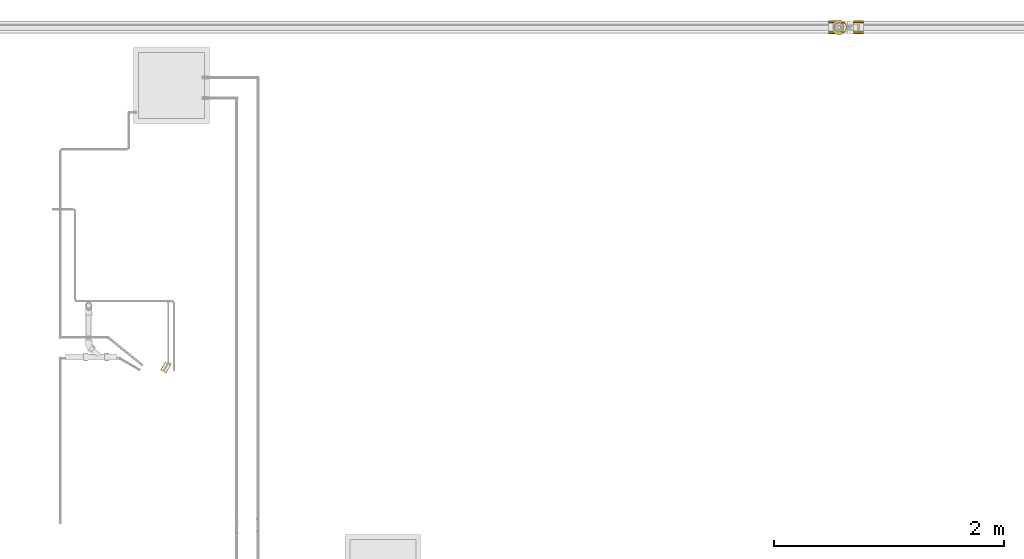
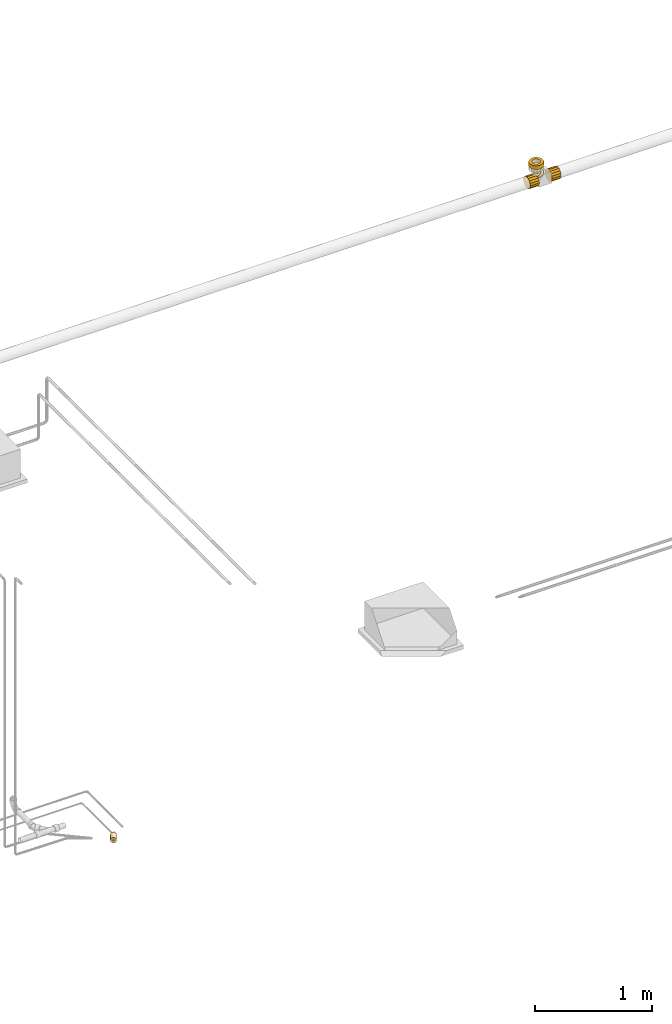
# One storey, part 1 of 35: 6 coverings.
"""IFC2X3 building model written with IfcOpenShell, lengths in millimetres."""

import ifcopenshell
import ifcopenshell.guid

model = None  # the IFC model being written
_history = None  # IfcOwnerHistory: only IFC2X3 demands one
_inside = {}  # id of a spatial element -> (the spatial element, [elements in it])
_under = {}  # id of a project, library or spatial element -> (it, [spatial elements below it])
_declared = {}  # id of a project -> (the project, [libraries it declares])
_typed = {}  # id of a type object -> (the type object, [elements of that type])
_made_of = {}  # id of a material, layer set ... -> (it, [elements and type objects made of it])


def new_model(schema):
    """Start an empty IFC model of exactly this schema.

    Asked for "IFC4X3", IfcOpenShell would pick the latest addendum, in which some entities
    have other attributes; the version numbers below select the first issue.
    IFC2X3 requires an IfcOwnerHistory on every rooted entity: one is made here for all.
    """
    global model, _history
    if schema == "IFC4X3":
        model = ifcopenshell.file(schema_version=(4, 3, 0, 0))
    else:
        model = ifcopenshell.file(schema=schema)
    _inside.clear()
    _under.clear()
    _declared.clear()
    _typed.clear()
    _made_of.clear()
    _history = None
    if model.schema == "IFC2X3":
        org = make("IfcOrganization", Name="unknown")
        user = make(
            "IfcPersonAndOrganization",
            ThePerson=make("IfcPerson", FamilyName="unknown"),
            TheOrganization=org,
        )
        app = make(
            "IfcApplication",
            ApplicationDeveloper=org,
            Version="unknown",
            ApplicationFullName="unknown",
            ApplicationIdentifier="unknown",
        )
        _history = make(
            "IfcOwnerHistory",
            OwningUser=user,
            OwningApplication=app,
            ChangeAction="ADDED",
            CreationDate=0,
        )
    return model


def make(cls, **values):
    """One entity of the class cls with the attributes given. An attribute that is None is left unset."""
    return model.create_entity(
        cls, **{name: value for name, value in values.items() if value is not None}
    )


def entity(cls, *values):
    """Any entity or typed value of the class cls, its attributes in the order of the schema. None: left unset."""
    e = model.create_entity(cls)
    for i, value in enumerate(values):
        if value is not None:
            e[i] = value
    return e


def rooted(cls, **values):
    """An entity with a GlobalId (a new one), such as an element, a storey or a relation."""
    return make(cls, GlobalId=ifcopenshell.guid.new(), OwnerHistory=_history, **values)


def si_unit(unit_type, name, prefix=None):
    """IfcSIUnit, for example si_unit("LENGTHUNIT", "METRE", prefix="MILLI")."""
    return make("IfcSIUnit", UnitType=unit_type, Prefix=prefix, Name=name)


def converted_unit(unit_type, name, factor, base, dimensions=None, offset=None):
    """IfcConversionBasedUnit, such as the inch: factor (a typed value) times the base unit."""
    return make(
        "IfcConversionBasedUnit"
        if offset is None
        else "IfcConversionBasedUnitWithOffset",
        ConversionOffset=offset,
        Dimensions=None
        if dimensions is None
        else entity("IfcDimensionalExponents", *dimensions),
        UnitType=unit_type,
        Name=name,
        ConversionFactor=make(
            "IfcMeasureWithUnit", ValueComponent=factor, UnitComponent=base
        ),
    )


def derived_unit(unit_type, elements):
    """IfcDerivedUnit: a product of units, each with its exponent."""
    return make(
        "IfcDerivedUnit",
        Elements=[
            make("IfcDerivedUnitElement", Unit=unit, Exponent=power)
            for unit, power in elements
        ],
        UnitType=unit_type,
    )


def assignment(units):
    """IfcUnitAssignment: the units of a project."""
    return None if units is None else make("IfcUnitAssignment", Units=units)


def point(xyz):
    """IfcCartesianPoint."""
    return None if xyz is None else make("IfcCartesianPoint", Coordinates=xyz)


def direction(xyz):
    """IfcDirection."""
    return None if xyz is None else make("IfcDirection", DirectionRatios=xyz)


def frame(location, z_axis=None, x_axis=None):
    """IfcAxis2Placement3D, a coordinate frame: its origin and axes. An axis left out is left unset."""
    return make(
        "IfcAxis2Placement3D",
        Location=point(location),
        Axis=direction(z_axis),
        RefDirection=direction(x_axis),
    )


def frame_2d(location, x_axis=None):
    """IfcAxis2Placement2D, a coordinate frame in the plane: its origin and x axis."""
    return make(
        "IfcAxis2Placement2D", Location=point(location), RefDirection=direction(x_axis)
    )


def origin_with_axes():
    """The frame at (0, 0, 0) with the z axis (0, 0, 1) and the x axis (1, 0, 0) written out."""
    return frame((0.0, 0.0, 0.0), z_axis=(0.0, 0.0, 1.0), x_axis=(1.0, 0.0, 0.0))


def origin_2d_with_axis():
    """The frame at (0, 0) in the plane with the x axis (1, 0) written out."""
    return frame_2d((0.0, 0.0), x_axis=(1.0, 0.0))


def place(relative_to, where):
    """IfcLocalPlacement: puts the frame where relative to a parent placement (None: the world)."""
    return make(
        "IfcLocalPlacement", PlacementRelTo=relative_to, RelativePlacement=where
    )


def context(
    kind, dimensions, precision=None, world=None, true_north=None, identifier=None
):
    """IfcGeometricRepresentationContext, for example the 3D "Model" context."""
    return make(
        "IfcGeometricRepresentationContext",
        ContextIdentifier=identifier,
        ContextType=kind,
        CoordinateSpaceDimension=dimensions,
        Precision=precision,
        WorldCoordinateSystem=world,
        TrueNorth=true_north,
    )


def subcontext(parent, identifier, kind, view, scale=None):
    """IfcGeometricRepresentationSubContext, for example "Body" below "Model"."""
    return make(
        "IfcGeometricRepresentationSubContext",
        ContextIdentifier=identifier,
        ContextType=kind,
        ParentContext=parent,
        TargetScale=scale,
        TargetView=view,
    )


def project(units=None, contexts=None):
    """IfcProject with its units and contexts."""
    return rooted(
        "IfcProject",
        Name="project",
        RepresentationContexts=contexts,
        UnitsInContext=assignment(units),
    )


def spatial(cls, under=None, at=None, **own):
    """A site, building, storey or space (cls), placed at a placement, below another one or the project."""
    s = rooted(cls, ObjectPlacement=at, **own)
    if under is not None:
        _under.setdefault(under.id(), (under, []))[1].append(s)
    return s


def profile(cls, at=None, kind="AREA", **sizes):
    """A parametric profile (cls). Its sizes go by their IFC names, for example OverallWidth=200.0."""
    return make(cls, ProfileType=kind, Position=at, **sizes)


def hollow_circle(**sizes):
    """IfcCircleHollowProfileDef."""
    return profile("IfcCircleHollowProfileDef", **sizes)


def extrude(swept, where, along, depth):
    """IfcExtrudedAreaSolid: the profile swept, set in the frame where, extruded along a direction by depth."""
    return make(
        "IfcExtrudedAreaSolid",
        SweptArea=swept,
        Position=where,
        ExtrudedDirection=direction(along),
        Depth=depth,
    )


def faces_of(points, faces, orient=None, outer=None):
    """IfcFace entities. A face is a list of loops; a loop is a list of indices into points, from 0.

    orient and outer hold one flag for each loop. By default every Orientation is true, the
    first loop of a face is its IfcFaceOuterBound and the others are IfcFaceBound.
    """
    made = []
    for i, loops in enumerate(faces):
        bounds = []
        for j, loop in enumerate(loops):
            is_outer = j == 0 if outer is None else outer[i][j]
            bounds.append(
                make(
                    "IfcFaceOuterBound" if is_outer else "IfcFaceBound",
                    Bound=make("IfcPolyLoop", Polygon=[points[k] for k in loop]),
                    Orientation=True if orient is None else orient[i][j],
                )
            )
        made.append(make("IfcFace", Bounds=bounds))
    return made


def open_shell(faces, orient=None, outer=None):
    """The faces of one IfcOpenShell. surface_model builds it on its shared points."""
    return ("IfcOpenShell", faces, orient, outer)


def surface_model(cls, points, shells):
    """IfcFaceBasedSurfaceModel or IfcShellBasedSurfaceModel (cls): surfaces that need not close."""
    shared = [point(p) for p in points]
    made = [make(c, CfsFaces=faces_of(shared, fs, o, b)) for c, fs, o, b in shells]
    if cls == "IfcFaceBasedSurfaceModel":
        return make(cls, FbsmFaces=made)
    return make(cls, SbsmBoundary=made)


def shape(context_of_items, identifier, shape_type, items):
    """IfcShapeRepresentation: the items that make up one representation, for example the "Body"."""
    return make(
        "IfcShapeRepresentation",
        ContextOfItems=context_of_items,
        RepresentationIdentifier=identifier,
        RepresentationType=shape_type,
        Items=items,
    )


def source(mapping_origin, context_of_items, identifier, shape_type, items):
    """IfcRepresentationMap: a shape defined once, which mapped items show again and again."""
    return make(
        "IfcRepresentationMap",
        MappingOrigin=mapping_origin,
        MappedRepresentation=shape(context_of_items, identifier, shape_type, items),
    )


def transform(
    local_origin,
    x_axis=None,
    y_axis=None,
    z_axis=None,
    scale=None,
    scale2=None,
    scale3=None,
    uniform=True,
):
    """IfcCartesianTransformationOperator3D, or its non-uniform kind. x_axis, y_axis, z_axis: its Axis1, 2, 3."""
    if uniform:
        return make(
            "IfcCartesianTransformationOperator3D",
            Axis1=direction(x_axis),
            Axis2=direction(y_axis),
            LocalOrigin=point(local_origin),
            Scale=scale,
            Axis3=direction(z_axis),
        )
    return make(
        "IfcCartesianTransformationOperator3DnonUniform",
        Axis1=direction(x_axis),
        Axis2=direction(y_axis),
        LocalOrigin=point(local_origin),
        Scale=scale,
        Axis3=direction(z_axis),
        Scale2=scale2,
        Scale3=scale3,
    )


def mapped(mapping_source, mapping_target):
    """IfcMappedItem: shows the shape of a source again, moved by a transform."""
    return make(
        "IfcMappedItem", MappingSource=mapping_source, MappingTarget=mapping_target
    )


def made_of(thing, what):
    """Note that an element or type object is made of a material, layer set ...; save() writes the relation."""
    if what is not None:
        _made_of.setdefault(what.id(), (what, []))[1].append(thing)
    return thing


def element(
    cls,
    number,
    at=None,
    inside=None,
    cuts=None,
    type_object=None,
    material=None,
    context=None,
    identifier="Body",
    shape_type=None,
    held_by="IfcProductDefinitionShape",
    body=None,
    shapes=None,
    **own,
):
    """One element of the class cls, such as IfcWall. Its Tag is "e" and its number.

    at: its placement. inside: the storey or other place that contains it. cuts: it is an
    opening in that element (IfcRelVoidsElement). A single representation is given by context,
    identifier, shape_type and body (its items); several are given by shapes. held_by: the class
    of the entity that holds the representations. save() writes the other relations.
    """
    e = rooted(cls, Tag="e%d" % number, ObjectPlacement=at, **own)
    if body is not None:
        shapes = [shape(context, identifier, shape_type, body)]
    if shapes is not None:
        e.Representation = make(held_by, Representations=shapes)
    if inside is not None:
        _inside.setdefault(inside.id(), (inside, []))[1].append(e)
    if cuts is not None:
        rooted(
            "IfcRelVoidsElement", RelatingBuildingElement=cuts, RelatedOpeningElement=e
        )
    if type_object is not None:
        _typed.setdefault(type_object.id(), (type_object, []))[1].append(e)
    return made_of(e, material)


def aggregate(whole, parts):
    """IfcRelAggregates: a whole, such as a stair, and the parts it consists of."""
    return rooted("IfcRelAggregates", RelatingObject=whole, RelatedObjects=parts)


def save(model, path):
    """Write the relations noted so far, then the file.

    IfcRelAggregates (storeys below a building ...), IfcRelContainedInSpatialStructure (elements
    in a storey), IfcRelDefinesByType, IfcRelAssociatesMaterial and IfcRelDeclares: one each for
    every whole, place, type object, material and project.
    """
    for whole, parts in _under.values():
        aggregate(whole, parts)
    for where, things in _inside.values():
        rooted(
            "IfcRelContainedInSpatialStructure",
            RelatedElements=things,
            RelatingStructure=where,
        )
    for kind, things in _typed.values():
        rooted("IfcRelDefinesByType", RelatedObjects=things, RelatingType=kind)
    for what, things in _made_of.values():
        rooted("IfcRelAssociatesMaterial", RelatedObjects=things, RelatingMaterial=what)
    for by, libraries in _declared.values():
        rooted("IfcRelDeclares", RelatingContext=by, RelatedDefinitions=libraries)
    model.write(path)


model = new_model("IFC2X3")

# Units and contexts
model_context = context("Model", 3, precision=0.01, world=frame((0.0, 4.29681676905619e-09, 0.0)), true_north=direction((4.01073788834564e-13, 1.0)))
plan_context = context("Plan", 3, precision=0.01, world=frame((0.0, 4.29681676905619e-09, 0.0)), true_north=direction((4.01073788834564e-13, 1.0)))
body_context = subcontext(model_context, "Body", "Model", "MODEL_VIEW")
ifc_project = project(units=[converted_unit("PLANEANGLEUNIT", "DEGREE", entity("IfcPositiveLengthMeasure", 0.0174532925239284), si_unit("PLANEANGLEUNIT", "RADIAN"), dimensions=[0, 0, 0, 0, 0, 0, 0]), si_unit("AREAUNIT", "SQUARE_METRE"), si_unit("LENGTHUNIT", "METRE", prefix="MILLI"), si_unit("MASSUNIT", "GRAM", prefix="KILO"), si_unit("POWERUNIT", "WATT"), si_unit("PRESSUREUNIT", "PASCAL"), si_unit("FORCEUNIT", "NEWTON", prefix="KILO"), si_unit("ELECTRICVOLTAGEUNIT", "VOLT"), si_unit("ELECTRICCURRENTUNIT", "AMPERE"), si_unit("THERMODYNAMICTEMPERATUREUNIT", "DEGREE_CELSIUS"), si_unit("TIMEUNIT", "SECOND"), si_unit("VOLUMEUNIT", "CUBIC_METRE"), derived_unit("LINEARVELOCITYUNIT", [(si_unit("LENGTHUNIT", "METRE"), 1), (si_unit("TIMEUNIT", "SECOND"), -1)]), derived_unit("VOLUMETRICFLOWRATEUNIT", [(si_unit("VOLUMEUNIT", "CUBIC_METRE"), 1), (si_unit("TIMEUNIT", "SECOND"), -1)]), derived_unit("THERMALTRANSMITTANCEUNIT", [(si_unit("POWERUNIT", "WATT"), 1), (si_unit("THERMODYNAMICTEMPERATUREUNIT", "KELVIN"), -1), (si_unit("AREAUNIT", "SQUARE_METRE"), -1)]), derived_unit("SOUNDPRESSUREUNIT", [(si_unit("PRESSUREUNIT", "PASCAL"), 1)])], contexts=[model_context, plan_context])

# Site, building, storey
site_placement = place(None, frame((0.0, -4.29681676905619e-09, 0.0), z_axis=(0.0, 0.0, 1.0), x_axis=(1.0, 0.0, 0.0)))
site = spatial("IfcSite", under=ifc_project, at=site_placement, Name="ENGM", CompositionType="ELEMENT")
building_placement = place(site_placement, frame((0.0, 4.29681676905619e-09, 0.0), z_axis=(0.0, 0.0, 1.0), x_axis=(1.0, 0.0, 0.0)))
building = spatial("IfcBuilding", under=site, at=building_placement, Name="TH", CompositionType="ELEMENT")
storey_placement = place(building_placement, frame((0.0, 0.0, 210200.0), z_axis=(0.0, 0.0, 1.0), x_axis=(1.0, 0.0, 0.0)))
storey = spatial("IfcBuildingStorey", under=building, at=storey_placement, Name="Nivå F - 0,7 m", CompositionType="ELEMENT", Elevation=210200.0)

# Coverings
shared_shape_1 = source(origin_with_axes(), body_context, "Body", "SweptSolid", [
    extrude(hollow_circle(Radius=64.5, WallThickness=27.0, at=origin_2d_with_axis()), frame((0.0, 0.0, 0.0), z_axis=(1.0, 0.0, 0.0), x_axis=(0.0, 1.0, 0.0)), (0.0, 0.0, 1.0), 38.5),
])
covering_1_placement = place(storey_placement, frame((905283.35126, 486361.37043, 3271.38279), z_axis=(0.0, 1.0, 0.0), x_axis=(0.0, 0.0, -1.0)))
element("IfcCovering", 1, at=covering_1_placement, inside=storey, Name="BI20T - Cellegummi 13 mm kalde rør", PredefinedType="INSULATION", context=body_context, shape_type="MappedRepresentation", body=[
    mapped(shared_shape_1, transform((0.0, 0.0, 0.0), scale=1.0)),
])
shared_shape_2 = source(origin_with_axes(), body_context, "Body", "SweptSolid", [
    extrude(hollow_circle(Radius=41.5, WallThickness=24.0, at=origin_2d_with_axis()), frame((0.0, 0.0, 0.0), z_axis=(1.0, 0.0, 0.0), x_axis=(0.0, 1.0, 0.0)), (0.0, 0.0, 1.0), 7.4),
])
covering_2_placement = place(storey_placement, frame((905283.35126, 486361.39307, 3185.46093999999), z_axis=(0.0, 0.99999988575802, 0.000477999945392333), x_axis=(0.0, -0.000477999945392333, 0.99999988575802)))
element("IfcCovering", 2, at=covering_2_placement, inside=storey, Name="BI20T - Cellegummi 13 mm kalde rør", PredefinedType="INSULATION", context=body_context, shape_type="MappedRepresentation", body=[
    mapped(shared_shape_2, transform((0.0, 0.0, 0.0), scale=1.0)),
])
shared_shape_3 = source(origin_with_axes(), body_context, "Body", "SweptSolid", [
    extrude(hollow_circle(Radius=41.5, WallThickness=24.0, at=origin_2d_with_axis()), frame((0.0, 0.0, 0.0), z_axis=(1.0, 0.0, 0.0), x_axis=(0.0, 1.0, 0.0)), (0.0, 0.0, 1.0), 34.9),
])
covering_3_placement = place(storey_placement, frame((905318.26266, 486361.4, 3136.05205999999), z_axis=(0.707106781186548, 0.0, 0.707106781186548), x_axis=(-0.707106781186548, 0.0, 0.707106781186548)))
element("IfcCovering", 3, at=covering_3_placement, inside=storey, Name="BI20T - Cellegummi 13 mm kalde rør", PredefinedType="INSULATION", context=body_context, shape_type="MappedRepresentation", body=[
    mapped(shared_shape_3, transform((0.0, 0.0, 0.0), scale=1.0)),
])
shared_shape_4 = source(origin_with_axes(), body_context, "Body", "SurfaceModel", [
    surface_model("IfcShellBasedSurfaceModel", [(88.6, -22.57832, 54.50889), (88.6, -41.7193, 41.7193), (88.6, -59.0, 0.0), (88.6, -54.50889, 22.57832), (88.6, 41.7193, 41.7193), (88.6, -41.7193, -41.7193), (88.6, 22.57832, 54.50889), (88.6, 0.0, 59.0), (88.6, 54.50889, 22.57832), (88.6, 41.7193, -41.7193), (88.6, -22.57832, -54.50889), (88.6, 0.0, -59.0), (88.6, 22.57832, -54.50889), (88.6, 54.50889, -22.57832), (88.6, 59.0, 0.0), (88.6, -54.50889, -22.57832), (0.0, -22.57832, 54.50889), (0.0, 0.0, 59.0), (0.0, 22.57832, 54.50889), (0.0, 41.7193, 41.7193), (0.0, 54.50889, 22.57832), (0.0, -41.7193, 41.7193), (0.0, -54.50889, -22.57832), (0.0, -59.0, 0.0), (0.0, -54.50889, 22.57832), (0.0, 59.0, 0.0), (0.0, 54.50889, -22.57832), (0.0, 22.57832, -54.50889), (0.0, 41.7193, -41.7193), (0.0, 0.0, -59.0), (0.0, -41.7193, -41.7193), (0.0, -22.57832, -54.50889), (88.6, -48.1141, -32.14881), (0.0, -56.75445, -11.28916), (88.6, -56.75445, -11.28916), (0.0, -48.1141, -32.14881), (0.0, -11.28916, -56.75445), (0.0, -32.14881, -48.1141), (88.6, -32.14881, -48.1141), (88.6, -15.18829, -55.97886), (88.6, 32.14881, -48.1141), (0.0, 11.28916, -56.75445), (88.6, 11.28916, -56.75445), (0.0, 32.14881, -48.1141), (0.0, 56.75445, -11.28916), (0.0, 48.1141, -32.14881), (88.6, 48.1141, -32.14881), (88.6, 55.97886, -15.18829), (88.6, 48.1141, 32.14881), (0.0, 56.75445, 11.28916), (88.6, 56.75445, 11.28916), (0.0, 48.1141, 32.14881), (0.0, 11.28916, 56.75445), (0.0, 32.14881, 48.1141), (88.6, 32.14881, 48.1141), (88.6, 15.18829, 55.97886), (88.6, -32.14881, 48.1141), (0.0, -11.28916, 56.75445), (88.6, -11.28916, 56.75445), (0.0, -32.14881, 48.1141), (0.0, -56.75445, 11.28916), (0.0, -48.1141, 32.14881), (88.6, -48.1141, 32.14881), (88.6, -55.97886, 15.18829)], [open_shell([[[0, 1, 2]], [[3, 2, 1]], [[4, 0, 5]], [[6, 7, 4]], [[4, 7, 0]], [[4, 5, 8]], [[5, 0, 2]], [[5, 9, 8]], [[10, 11, 5]], [[12, 5, 11]], [[13, 14, 9]], [[14, 8, 9]], [[5, 12, 9]], [[5, 2, 15]], [[16, 17, 18]], [[19, 20, 18]], [[16, 18, 20]], [[16, 20, 21]], [[22, 23, 24]], [[24, 21, 22]], [[21, 20, 22]], [[25, 26, 27]], [[28, 27, 26]], [[25, 27, 29]], [[30, 22, 31]], [[31, 22, 25]], [[25, 29, 31]], [[25, 22, 20]], [[32, 30, 5]], [[33, 22, 34]], [[2, 23, 33]], [[30, 32, 35]], [[15, 22, 35]], [[15, 35, 32]], [[36, 29, 11]], [[5, 30, 37]], [[5, 37, 38]], [[39, 10, 31]], [[11, 39, 36]], [[2, 33, 34]], [[39, 31, 36]], [[31, 10, 38]], [[31, 38, 37]], [[22, 15, 34]], [[40, 28, 9]], [[41, 27, 42]], [[11, 29, 41]], [[28, 40, 43]], [[12, 27, 43]], [[12, 43, 40]], [[44, 25, 14]], [[9, 28, 45]], [[9, 45, 46]], [[47, 13, 26]], [[14, 47, 44]], [[11, 41, 42]], [[47, 26, 44]], [[26, 13, 46]], [[26, 46, 45]], [[27, 12, 42]], [[48, 19, 4]], [[49, 20, 50]], [[14, 25, 49]], [[19, 48, 51]], [[8, 20, 51]], [[8, 51, 48]], [[52, 17, 7]], [[4, 19, 53]], [[4, 53, 54]], [[55, 6, 18]], [[7, 55, 52]], [[14, 49, 50]], [[55, 18, 52]], [[18, 6, 54]], [[18, 54, 53]], [[20, 8, 50]], [[56, 21, 1]], [[57, 16, 58]], [[7, 17, 57]], [[21, 56, 59]], [[0, 16, 59]], [[0, 59, 56]], [[60, 23, 2]], [[1, 21, 61]], [[1, 61, 62]], [[63, 3, 24]], [[2, 63, 60]], [[7, 57, 58]], [[63, 24, 60]], [[24, 3, 62]], [[24, 62, 61]], [[16, 0, 58]]])]),
])
for number, where, z_axis, x_axis in (
    (4, (905406.68907, 486361.4, 3085.00002000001), (0.0, 0.0, 1.0), (1.0, 0.0, 0.0)),
    (5, (905280.88829, 486361.4, 3085.00002000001), (0.0, 0.0, 1.0), (-1.0, 0.0, 0.0)),
):
    element("IfcCovering", number, at=place(storey_placement, frame(where, z_axis=z_axis, x_axis=x_axis)), inside=storey, Name="BI20T - Cellegummi 13 mm kalde rør", PredefinedType="INSULATION", context=body_context, shape_type="MappedRepresentation", body=[
        mapped(shared_shape_4, transform((0.0, 0.0, 0.0), scale=1.0)),
    ])
shared_shape_5 = source(origin_with_axes(), body_context, "Body", "SweptSolid", [
    extrude(hollow_circle(Radius=27.5, WallThickness=20.0, at=origin_2d_with_axis()), frame((0.0, 0.0, 0.0), z_axis=(1.0, 0.0, 0.0), x_axis=(0.0, 1.0, 0.0)), (0.0, 0.0, 1.0), 81.0),
])
covering_4_placement = place(storey_placement, frame((899397.99975, 483364.11656, 97.078600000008), z_axis=(-0.0001259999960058, -0.0002179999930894, 0.999999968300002), x_axis=(0.500000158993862, 0.866025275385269, 0.000251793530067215)))
element("IfcCovering", 6, at=covering_4_placement, inside=storey, Name="BI16T - Rørskål m/Al.folie - VV 40mm", PredefinedType="INSULATION", context=body_context, shape_type="MappedRepresentation", body=[
    mapped(shared_shape_5, transform((0.0, 0.0, 0.0), scale=1.0)),
])

save(model, "model.ifc")
